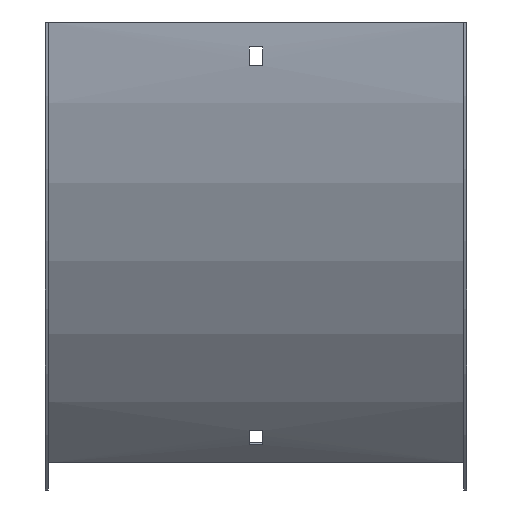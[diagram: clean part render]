
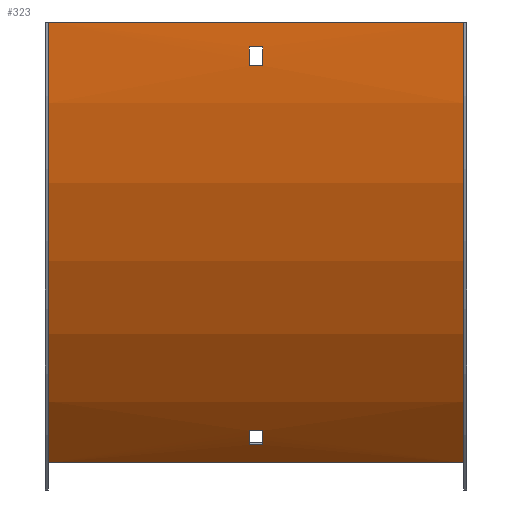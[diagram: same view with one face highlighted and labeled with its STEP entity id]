
A CAD part, front view. The second image highlights one B-rep face of the part: STEP entity #323.
In plain terms, the highlighted cylindrical face has radius 300 mm (diameter 600 mm), a partial arc.
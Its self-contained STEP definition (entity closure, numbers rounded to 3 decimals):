
#16 = VERTEX_POINT ( 'NONE', #126 ) ;
#25 = CARTESIAN_POINT ( 'NONE',  ( -3.25, -0.764, -21. ) ) ;
#29 = AXIS2_PLACEMENT_3D ( 'NONE', #41, #401, #447 ) ;
#41 = CARTESIAN_POINT ( 'NONE',  ( -3.25, 298.5, 0. ) ) ;
#48 = DIRECTION ( 'NONE',  ( 1., 0., 0. ) ) ;
#51 = CARTESIAN_POINT ( 'NONE',  ( 101.5, -0.764, -21. ) ) ;
#53 = DIRECTION ( 'NONE',  ( 1., 0., 0. ) ) ;
#57 = CARTESIAN_POINT ( 'NONE',  ( 101.5, -1.26, -12. ) ) ;
#60 = EDGE_CURVE ( 'NONE', #244, #16, #219, .T. ) ;
#65 = VERTEX_POINT ( 'NONE', #25 ) ;
#67 = VERTEX_POINT ( 'NONE', #75 ) ;
#75 = CARTESIAN_POINT ( 'NONE',  ( -100., -1.5, 0. ) ) ;
#78 = CARTESIAN_POINT ( 'NONE',  ( 3.25, -0.764, -21. ) ) ;
#86 = LINE ( 'NONE', #326, #216 ) ;
#95 = CYLINDRICAL_SURFACE ( 'NONE', #433, 300. ) ;
#98 = DIRECTION ( 'NONE',  ( 0., 0., 1. ) ) ;
#104 = EDGE_LOOP ( 'NONE', ( #303, #284, #533, #252 ) ) ;
#105 = VECTOR ( 'NONE', #461, 1000. ) ;
#106 = ORIENTED_EDGE ( 'NONE', *, *, #388, .F. ) ;
#110 = CIRCLE ( 'NONE', #453, 300. ) ;
#112 = ORIENTED_EDGE ( 'NONE', *, *, #409, .F. ) ;
#114 = EDGE_CURVE ( 'NONE', #295, #570, #451, .T. ) ;
#116 = CARTESIAN_POINT ( 'NONE',  ( -3.25, 72.039, -196.762 ) ) ;
#126 = CARTESIAN_POINT ( 'NONE',  ( -3.25, 78.052, -203.477 ) ) ;
#139 = CARTESIAN_POINT ( 'NONE',  ( 3.25, 298.5, 0. ) ) ;
#148 = CIRCLE ( 'NONE', #227, 300. ) ;
#151 = DIRECTION ( 'NONE',  ( 0., 0., -1. ) ) ;
#157 = VERTEX_POINT ( 'NONE', #330 ) ;
#159 = VERTEX_POINT ( 'NONE', #184 ) ;
#161 = ORIENTED_EDGE ( 'NONE', *, *, #241, .T. ) ;
#164 = DIRECTION ( 'NONE',  ( -1., 0., 0. ) ) ;
#166 = DIRECTION ( 'NONE',  ( 1., 0., 0. ) ) ;
#184 = CARTESIAN_POINT ( 'NONE',  ( 3.25, 72.039, -196.762 ) ) ;
#188 = VECTOR ( 'NONE', #541, 1000. ) ;
#189 = EDGE_CURVE ( 'NONE', #436, #157, #321, .T. ) ;
#205 = ORIENTED_EDGE ( 'NONE', *, *, #254, .F. ) ;
#216 = VECTOR ( 'NONE', #166, 1000. ) ;
#219 = LINE ( 'NONE', #311, #188 ) ;
#222 = DIRECTION ( 'NONE',  ( -1., 0., 0. ) ) ;
#223 = CARTESIAN_POINT ( 'NONE',  ( 101.5, 298.5, 0. ) ) ;
#227 = AXIS2_PLACEMENT_3D ( 'NONE', #139, #53, #235 ) ;
#228 = CARTESIAN_POINT ( 'NONE',  ( -100., 298.5, 0. ) ) ;
#235 = DIRECTION ( 'NONE',  ( 0., 0., 1. ) ) ;
#236 = ORIENTED_EDGE ( 'NONE', *, *, #470, .F. ) ;
#241 = EDGE_CURVE ( 'NONE', #295, #361, #467, .T. ) ;
#244 = VERTEX_POINT ( 'NONE', #427 ) ;
#249 = ORIENTED_EDGE ( 'NONE', *, *, #189, .F. ) ;
#252 = ORIENTED_EDGE ( 'NONE', *, *, #355, .T. ) ;
#254 = EDGE_CURVE ( 'NONE', #65, #436, #327, .T. ) ;
#255 = EDGE_LOOP ( 'NONE', ( #112, #106, #249, #205 ) ) ;
#262 = LINE ( 'NONE', #372, #105 ) ;
#268 = CARTESIAN_POINT ( 'NONE',  ( 100., 298.5, 0. ) ) ;
#272 = CARTESIAN_POINT ( 'NONE',  ( -3.25, 298.5, 0. ) ) ;
#276 = VECTOR ( 'NONE', #480, 1000. ) ;
#284 = ORIENTED_EDGE ( 'NONE', *, *, #444, .T. ) ;
#287 = LINE ( 'NONE', #57, #276 ) ;
#295 = VERTEX_POINT ( 'NONE', #383 ) ;
#303 = ORIENTED_EDGE ( 'NONE', *, *, #60, .T. ) ;
#311 = CARTESIAN_POINT ( 'NONE',  ( 101.5, 78.052, -203.477 ) ) ;
#320 = DIRECTION ( 'NONE',  ( 0., 0., -1. ) ) ;
#321 = CIRCLE ( 'NONE', #530, 300. ) ;
#323 = ADVANCED_FACE ( 'NONE', ( #386, #596, #379 ), #95, .T. ) ;
#326 = CARTESIAN_POINT ( 'NONE',  ( 101.5, 72.039, -196.762 ) ) ;
#327 = LINE ( 'NONE', #51, #341 ) ;
#330 = CARTESIAN_POINT ( 'NONE',  ( 3.25, -1.26, -12. ) ) ;
#333 = CARTESIAN_POINT ( 'NONE',  ( 100., -1.5, 0. ) ) ;
#340 = DIRECTION ( 'NONE',  ( 0., 0., 1. ) ) ;
#341 = VECTOR ( 'NONE', #48, 1000. ) ;
#344 = EDGE_LOOP ( 'NONE', ( #236, #422, #161, #393 ) ) ;
#355 = EDGE_CURVE ( 'NONE', #159, #244, #148, .T. ) ;
#361 = VERTEX_POINT ( 'NONE', #333 ) ;
#372 = CARTESIAN_POINT ( 'NONE',  ( 100., -1.5, 0. ) ) ;
#379 = FACE_BOUND ( 'NONE', #104, .T. ) ;
#383 = CARTESIAN_POINT ( 'NONE',  ( 100., 86.368, -212.132 ) ) ;
#386 = FACE_BOUND ( 'NONE', #255, .T. ) ;
#388 = EDGE_CURVE ( 'NONE', #157, #414, #287, .T. ) ;
#390 = CARTESIAN_POINT ( 'NONE',  ( 3.25, 298.5, 0. ) ) ;
#393 = ORIENTED_EDGE ( 'NONE', *, *, #510, .T. ) ;
#401 = DIRECTION ( 'NONE',  ( 1., 0., 0. ) ) ;
#409 = EDGE_CURVE ( 'NONE', #414, #65, #556, .T. ) ;
#414 = VERTEX_POINT ( 'NONE', #499 ) ;
#422 = ORIENTED_EDGE ( 'NONE', *, *, #114, .F. ) ;
#427 = CARTESIAN_POINT ( 'NONE',  ( 3.25, 78.052, -203.477 ) ) ;
#433 = AXIS2_PLACEMENT_3D ( 'NONE', #223, #517, #98 ) ;
#434 = CARTESIAN_POINT ( 'NONE',  ( 100., 86.368, -212.132 ) ) ;
#436 = VERTEX_POINT ( 'NONE', #78 ) ;
#444 = EDGE_CURVE ( 'NONE', #16, #522, #110, .T. ) ;
#447 = DIRECTION ( 'NONE',  ( 0., 0., 1. ) ) ;
#451 = LINE ( 'NONE', #434, #575 ) ;
#453 = AXIS2_PLACEMENT_3D ( 'NONE', #272, #455, #320 ) ;
#455 = DIRECTION ( 'NONE',  ( -1., 0., 0. ) ) ;
#456 = DIRECTION ( 'NONE',  ( 0., 0., 1. ) ) ;
#461 = DIRECTION ( 'NONE',  ( -1., 0., 0. ) ) ;
#467 = CIRCLE ( 'NONE', #578, 300. ) ;
#470 = EDGE_CURVE ( 'NONE', #570, #67, #502, .T. ) ;
#479 = AXIS2_PLACEMENT_3D ( 'NONE', #228, #500, #456 ) ;
#480 = DIRECTION ( 'NONE',  ( -1., 0., 0. ) ) ;
#499 = CARTESIAN_POINT ( 'NONE',  ( -3.25, -1.26, -12. ) ) ;
#500 = DIRECTION ( 'NONE',  ( -1., 0., 0. ) ) ;
#502 = CIRCLE ( 'NONE', #479, 300. ) ;
#505 = CARTESIAN_POINT ( 'NONE',  ( -100., 86.368, -212.132 ) ) ;
#510 = EDGE_CURVE ( 'NONE', #361, #67, #262, .T. ) ;
#517 = DIRECTION ( 'NONE',  ( -1., 0., 0. ) ) ;
#522 = VERTEX_POINT ( 'NONE', #116 ) ;
#530 = AXIS2_PLACEMENT_3D ( 'NONE', #390, #565, #151 ) ;
#533 = ORIENTED_EDGE ( 'NONE', *, *, #574, .T. ) ;
#541 = DIRECTION ( 'NONE',  ( -1., 0., 0. ) ) ;
#556 = CIRCLE ( 'NONE', #29, 300. ) ;
#565 = DIRECTION ( 'NONE',  ( -1., 0., 0. ) ) ;
#570 = VERTEX_POINT ( 'NONE', #505 ) ;
#574 = EDGE_CURVE ( 'NONE', #522, #159, #86, .T. ) ;
#575 = VECTOR ( 'NONE', #164, 1000. ) ;
#578 = AXIS2_PLACEMENT_3D ( 'NONE', #268, #222, #340 ) ;
#596 = FACE_OUTER_BOUND ( 'NONE', #344, .T. ) ;
